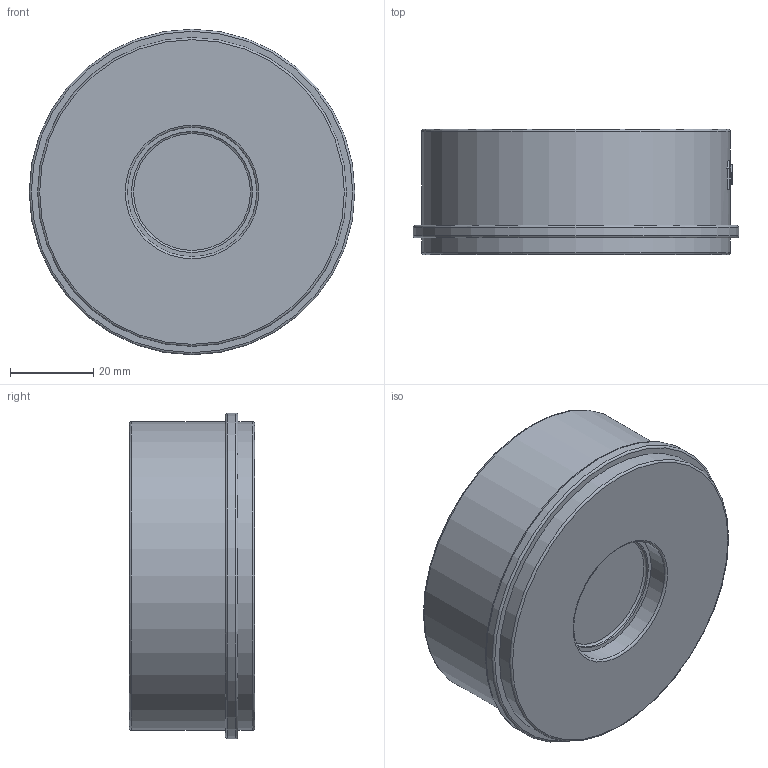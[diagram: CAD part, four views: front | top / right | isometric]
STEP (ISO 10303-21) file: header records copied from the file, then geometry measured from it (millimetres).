
FILE_DESCRIPTION(('STEP AP242'), '1');
FILE_NAME('VCS3232-Fb Êëàïàí îáðàòíûé ïðóæèííûé DN.ru Äó32 Ðó40', '', ('UNSPECIFIED'), ('UNSPECIFIED'), 'C3D Converter', 'C3D Toolkit', '');
FILE_SCHEMA(('AP242_MANAGED_MODEL_BASED_3D_ENGINEERING_MIM_LF { 1 0 10303 442 1 1 4 }'));
Length unit declared in the file: millimetre
Products named in the file (1): VCS3232-Fb
Bounding box: 78 x 30 x 78 mm (x, y, z)
Volume: 43915.9 mm3; surface area: 29699.8 mm2
Topology: 1 solids, 1 shells, 137 faces, 363 edges, 244 vertices
Faces by surface type: plane 53, extrusion 40, cylinder 29, torus 10, bspline 3, cone 2
Full cylindrical faces by diameter (mm): 6.5 x2, 10.5 x2, 29 x1, 31 x1, 39 x1, 40 x1, 54 x1, 68 x1, 74 x2, 78 x1
Entity records: 11197 total; most frequent: CARTESIAN_POINT 7944, ORIENTED_EDGE 670, DIRECTION 545, EDGE_CURVE 335, VERTEX_POINT 244, AXIS2_PLACEMENT_3D 199, EDGE_LOOP 189, FACE_BOUND 168
